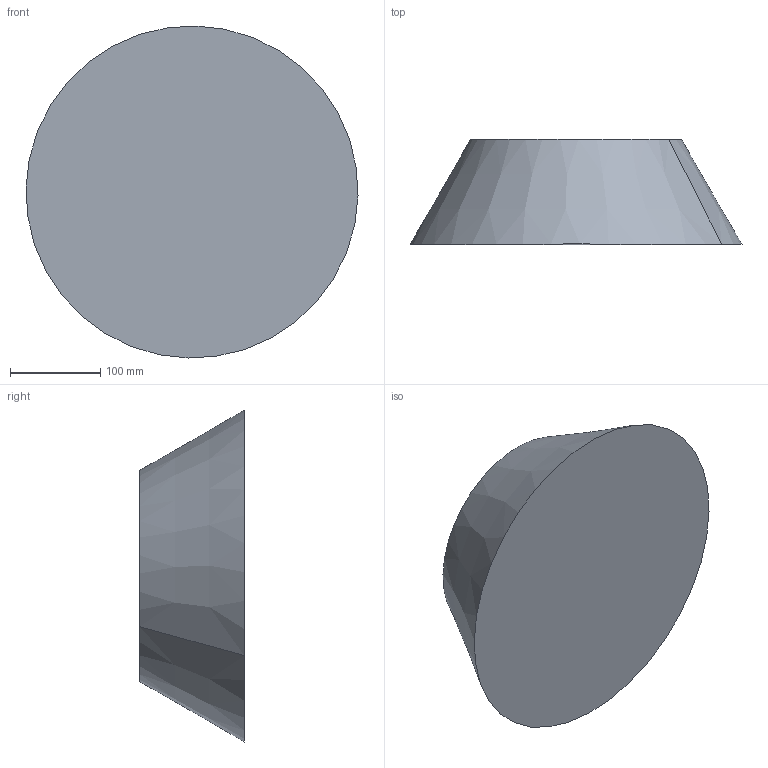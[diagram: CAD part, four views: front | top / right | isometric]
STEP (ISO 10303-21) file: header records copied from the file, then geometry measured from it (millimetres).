
FILE_DESCRIPTION(('CATIA V5 STEP Exchange'),'2;1');
FILE_NAME('C:\_Andres\UNIVERSIDAD\IQS\ASIGNATURAS\DAO\EXF\EXF-16172c\2inicio\Icart_Martori_Ej09_v16.stp','2017-03-05T22:13:12+00:00',('none'),('none'),'CATIA Version 5-6 Release 2014 SP1 HF18','CATIA V5 STEP AP203','none');
FILE_SCHEMA(('CONFIG_CONTROL_DESIGN'));
Length unit declared in the file: millimetre
Products named in the file (1): Icart_Martori_Ej09_v16
Bounding box: 367.9 x 116 x 367.9 mm (x, y, z)
Volume: 8384172.7 mm3; surface area: 278259 mm2
Topology: 1 solids, 2 shells, 8 faces, 12 edges, 8 vertices
Faces by surface type: plane 4, cone 2, cylinder 2
Entity records: 205 total; most frequent: CARTESIAN_POINT 27, DIRECTION 24, ORIENTED_EDGE 24, AXIS2_PLACEMENT_3D 15, EDGE_CURVE 12, ADVANCED_FACE 8, CIRCLE 8, EDGE_LOOP 8
